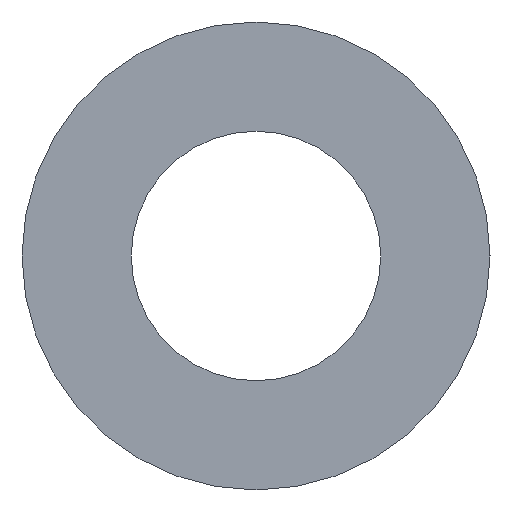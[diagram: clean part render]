
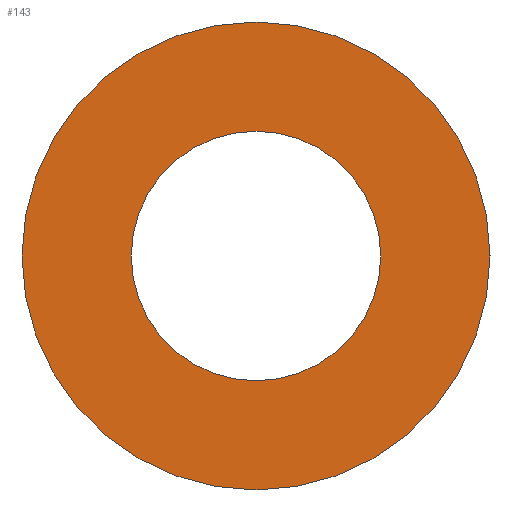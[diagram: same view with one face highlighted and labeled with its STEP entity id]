
A CAD part, left-side view. The second image highlights one B-rep face of the part: STEP entity #143.
In plain terms, the highlighted planar face has unit normal (-1, 0, 0).
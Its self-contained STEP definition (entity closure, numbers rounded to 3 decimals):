
#20=PLANE('',#174);
#32=ORIENTED_EDGE('',*,*,#56,.T.);
#33=ORIENTED_EDGE('',*,*,#55,.F.);
#55=EDGE_CURVE('',#67,#67,#79,.T.);
#56=EDGE_CURVE('',#68,#68,#80,.T.);
#67=VERTEX_POINT('',#254);
#68=VERTEX_POINT('',#257);
#79=CIRCLE('',#173,7.5);
#80=CIRCLE('',#175,4.);
#92=EDGE_LOOP('',(#32));
#93=EDGE_LOOP('',(#33));
#116=FACE_BOUND('',#92,.T.);
#117=FACE_BOUND('',#93,.T.);
#143=ADVANCED_FACE('',(#116,#117),#20,.F.);
#173=AXIS2_PLACEMENT_3D('',#253,#207,#208);
#174=AXIS2_PLACEMENT_3D('',#255,#209,#210);
#175=AXIS2_PLACEMENT_3D('',#256,#211,#212);
#207=DIRECTION('',(1.,0.,0.));
#208=DIRECTION('',(0.,0.,-1.));
#209=DIRECTION('',(1.,0.,0.));
#210=DIRECTION('',(0.,0.,-1.));
#211=DIRECTION('',(1.,0.,0.));
#212=DIRECTION('',(0.,0.,-1.));
#253=CARTESIAN_POINT('',(-22.5,0.,0.));
#254=CARTESIAN_POINT('',(-22.5,0.,-7.5));
#255=CARTESIAN_POINT('',(-22.5,0.,0.));
#256=CARTESIAN_POINT('',(-22.5,0.,0.));
#257=CARTESIAN_POINT('',(-22.5,0.,-4.));
